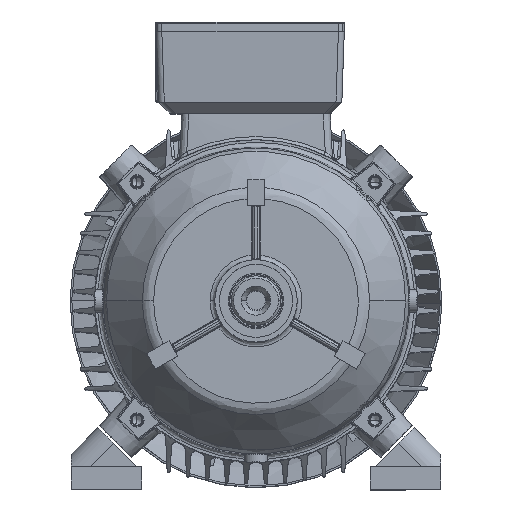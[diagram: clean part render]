
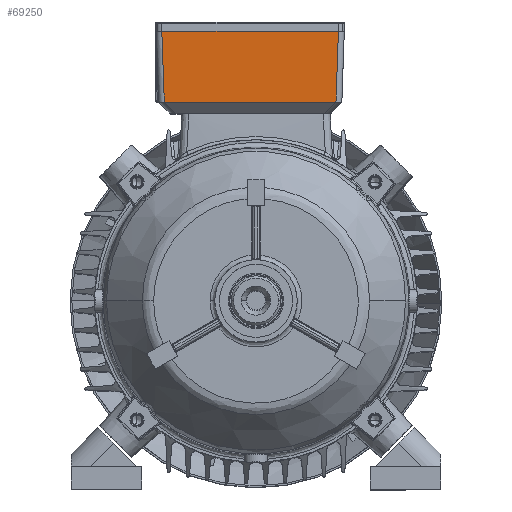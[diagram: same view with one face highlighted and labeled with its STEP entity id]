
A CAD part, top view. The second image highlights one B-rep face of the part: STEP entity #69250.
In plain terms, the highlighted planar face has unit normal (0, -0.035, 0.999) as drawn and (0.999, 0, -0.035) by its records, which use the part's own axes.
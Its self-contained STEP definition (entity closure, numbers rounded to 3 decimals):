
#6453 = ORIENTED_EDGE ( 'NONE', *, *, #143721, .T. ) ;
#6454 = ORIENTED_EDGE ( 'NONE', *, *, #144034, .T. ) ;
#6457 = ORIENTED_EDGE ( 'NONE', *, *, #144039, .T. ) ;
#6459 = ORIENTED_EDGE ( 'NONE', *, *, #144043, .F. ) ;
#37852 = CARTESIAN_POINT ( 'NONE',  ( 72.905, 67.908, 10. ) ) ;
#37861 = CARTESIAN_POINT ( 'NONE',  ( 72.905, -77.908, 10. ) ) ;
#37895 = CARTESIAN_POINT ( 'NONE',  ( 75., -80.003, 70. ) ) ;
#37896 = CARTESIAN_POINT ( 'NONE',  ( 75., 70.003, 70. ) ) ;
#39729 = CARTESIAN_POINT ( 'NONE',  ( 72.905, 75., 10. ) ) ;
#39733 = DIRECTION ( 'NONE',  ( 0., 1., 0. ) ) ;
#41466 = LINE ( 'NONE', #39729, #41468 ) ;
#41468 = VECTOR ( 'NONE', #39733, 1000. ) ;
#41702 = LINE ( 'NONE', #45308, #41711 ) ;
#41708 = LINE ( 'NONE', #45310, #41715 ) ;
#41711 = VECTOR ( 'NONE', #45322, 1000. ) ;
#41715 = VECTOR ( 'NONE', #45331, 1000. ) ;
#41716 = LINE ( 'NONE', #45338, #41719 ) ;
#41719 = VECTOR ( 'NONE', #45341, 1000. ) ;
#45308 = CARTESIAN_POINT ( 'NONE',  ( 72.905, 67.908, 10. ) ) ;
#45310 = CARTESIAN_POINT ( 'NONE',  ( 75., -85., 70. ) ) ;
#45322 = DIRECTION ( 'NONE',  ( 0.035, 0.035, 0.999 ) ) ;
#45331 = DIRECTION ( 'NONE',  ( 0., -1., 0. ) ) ;
#45338 = CARTESIAN_POINT ( 'NONE',  ( 75.006, -80.009, 70.174 ) ) ;
#45341 = DIRECTION ( 'NONE',  ( 0.035, -0.035, 0.999 ) ) ;
#69250 = ADVANCED_FACE ( 'NONE', ( #156905 ), #153356, .T. ) ;
#76313 = AXIS2_PLACEMENT_3D ( 'NONE', #153351, #153360, #153362 ) ;
#100492 = EDGE_LOOP ( 'NONE', ( #6453, #6454, #6457, #6459 ) ) ;
#133658 = VERTEX_POINT ( 'NONE', #37852 ) ;
#133678 = VERTEX_POINT ( 'NONE', #37861 ) ;
#133789 = VERTEX_POINT ( 'NONE', #37895 ) ;
#133806 = VERTEX_POINT ( 'NONE', #37896 ) ;
#143721 = EDGE_CURVE ( 'NONE', #133678, #133658, #41466, .T. ) ;
#144034 = EDGE_CURVE ( 'NONE', #133658, #133806, #41702, .T. ) ;
#144039 = EDGE_CURVE ( 'NONE', #133806, #133789, #41708, .T. ) ;
#144043 = EDGE_CURVE ( 'NONE', #133678, #133789, #41716, .T. ) ;
#153351 = CARTESIAN_POINT ( 'NONE',  ( 75., 75., 70. ) ) ;
#153356 = PLANE ( 'NONE',  #76313 ) ;
#153360 = DIRECTION ( 'NONE',  ( 0.999, 0., -0.035 ) ) ;
#153362 = DIRECTION ( 'NONE',  ( -0.035, 0., -0.999 ) ) ;
#156905 = FACE_OUTER_BOUND ( 'NONE', #100492, .T. ) ;
